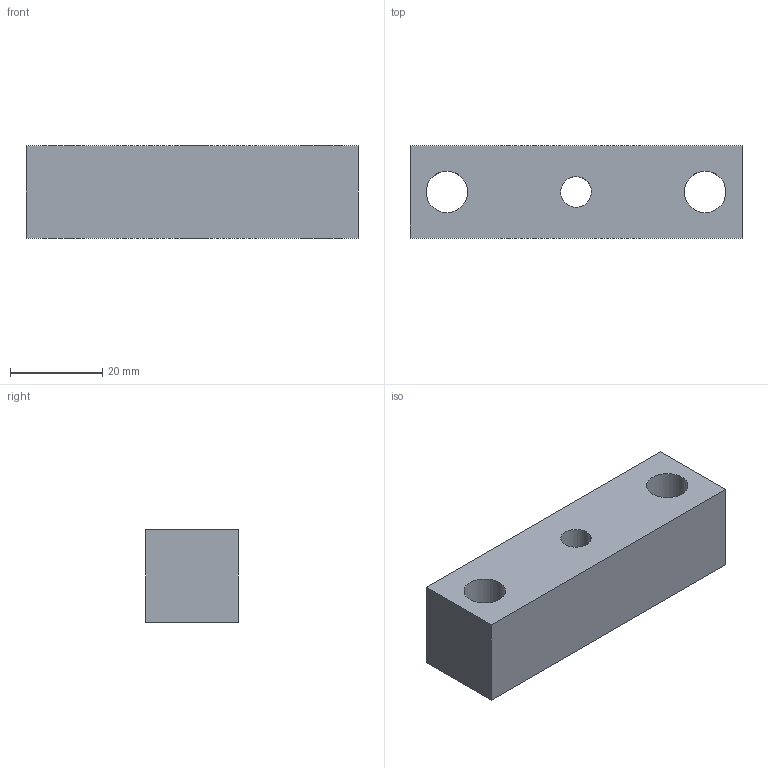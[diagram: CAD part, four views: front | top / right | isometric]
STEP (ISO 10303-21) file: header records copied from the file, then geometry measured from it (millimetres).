
FILE_DESCRIPTION(('CATIA V5 STEP Exchange'),'2;1');
FILE_NAME('G:\够快云库\系统集成开发部\1.部门成员\孙国\工装\手动插管\STP\GZ-SDCG07_V1 前推气缸连接块.stp','2020-12-07T06:13:54+00:00',('none'),('none'),'CATIA Version 5 Release 20 GA (IN-10)','CATIA V5 STEP AP203','none');
FILE_SCHEMA(('CONFIG_CONTROL_DESIGN'));
Length unit declared in the file: millimetre
Products named in the file (1): 前推气缸连接块
Bounding box: 72 x 20 x 20 mm (x, y, z)
Volume: 25561.3 mm3; surface area: 7784.7 mm2
Topology: 1 solids, 1 shells, 12 faces, 30 edges, 20 vertices
Faces by surface type: cylinder 6, plane 6
Entity records: 393 total; most frequent: CARTESIAN_POINT 60, ORIENTED_EDGE 60, DIRECTION 48, EDGE_CURVE 30, AXIS2_PLACEMENT_3D 22, VERTEX_POINT 20, VECTOR 18, EDGE_LOOP 18
